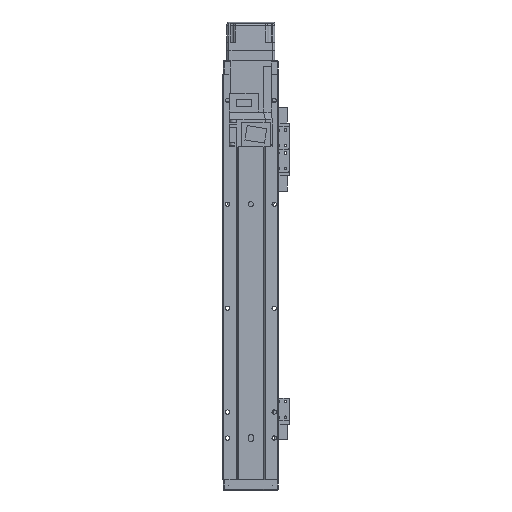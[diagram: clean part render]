
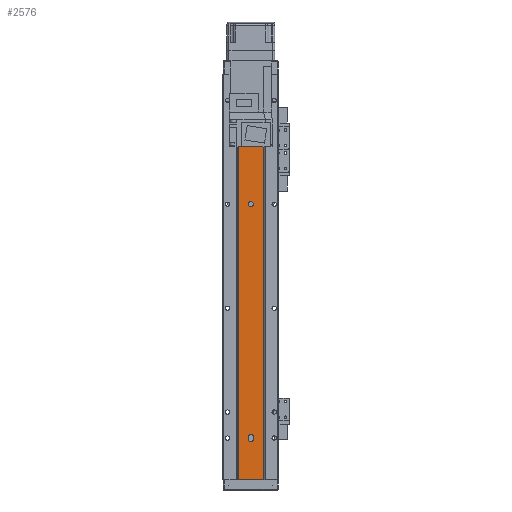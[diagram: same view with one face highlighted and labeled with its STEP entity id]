
A CAD part, front view. The second image highlights one B-rep face of the part: STEP entity #2576.
In plain terms, the highlighted planar face has unit normal (0, -1, 0).
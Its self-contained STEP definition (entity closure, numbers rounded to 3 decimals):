
#451 = CIRCLE ( 'NONE', #18989, 2.5 ) ;
#730 = CARTESIAN_POINT ( 'NONE',  ( 2.5, 1.5, -351. ) ) ;
#1187 = VERTEX_POINT ( 'NONE', #2848 ) ;
#1634 = LINE ( 'NONE', #7717, #4812 ) ;
#1801 = ORIENTED_EDGE ( 'NONE', *, *, #4036, .T. ) ;
#1868 = CARTESIAN_POINT ( 'NONE',  ( 0., 1.5, -125. ) ) ;
#2576 = ADVANCED_FACE ( 'NONE', ( #34370, #12759, #3104, #4954 ), #3392, .T. ) ;
#2631 = EDGE_CURVE ( 'NONE', #21459, #36064, #38103, .T. ) ;
#2697 = CARTESIAN_POINT ( 'NONE',  ( 0., 1.5, -125. ) ) ;
#2848 = CARTESIAN_POINT ( 'NONE',  ( -2.5, 1.5, -25. ) ) ;
#2887 = EDGE_CURVE ( 'NONE', #7837, #21459, #3518, .T. ) ;
#3104 = FACE_BOUND ( 'NONE', #25607, .T. ) ;
#3267 = DIRECTION ( 'NONE',  ( 1., 0., 0. ) ) ;
#3360 = CARTESIAN_POINT ( 'NONE',  ( 2.5, 1.5, -25. ) ) ;
#3392 = PLANE ( 'NONE',  #17616 ) ;
#3473 = EDGE_LOOP ( 'NONE', ( #5670, #26751, #28394, #10118 ) ) ;
#3518 = LINE ( 'NONE', #34626, #5800 ) ;
#4036 = EDGE_CURVE ( 'NONE', #15973, #19961, #33252, .T. ) ;
#4352 = CARTESIAN_POINT ( 'NONE',  ( -12.293, 1.5, -390. ) ) ;
#4812 = VECTOR ( 'NONE', #33839, 1000. ) ;
#4954 = FACE_OUTER_BOUND ( 'NONE', #7087, .T. ) ;
#5042 = CARTESIAN_POINT ( 'NONE',  ( 12.293, 1.5, -390. ) ) ;
#5670 = ORIENTED_EDGE ( 'NONE', *, *, #25102, .F. ) ;
#5800 = VECTOR ( 'NONE', #19455, 1000. ) ;
#5866 = CARTESIAN_POINT ( 'NONE',  ( 2.5, 1.5, -349. ) ) ;
#6339 = CARTESIAN_POINT ( 'NONE',  ( 12.293, 1.5, -390. ) ) ;
#6765 = CARTESIAN_POINT ( 'NONE',  ( 12.293, 1.5, -390. ) ) ;
#7087 = EDGE_LOOP ( 'NONE', ( #12561, #28130, #20451, #1801 ) ) ;
#7109 = AXIS2_PLACEMENT_3D ( 'NONE', #16105, #12891, #27299 ) ;
#7208 = EDGE_LOOP ( 'NONE', ( #33352, #10644 ) ) ;
#7343 = LINE ( 'NONE', #28990, #26219 ) ;
#7717 = CARTESIAN_POINT ( 'NONE',  ( 12.293, 1.5, 0. ) ) ;
#7837 = VERTEX_POINT ( 'NONE', #730 ) ;
#7858 = EDGE_CURVE ( 'NONE', #1187, #26716, #17765, .T. ) ;
#7973 = ORIENTED_EDGE ( 'NONE', *, *, #17970, .F. ) ;
#8815 = VECTOR ( 'NONE', #26708, 1000. ) ;
#9010 = DIRECTION ( 'NONE',  ( 0., -1., 0. ) ) ;
#10118 = ORIENTED_EDGE ( 'NONE', *, *, #2887, .F. ) ;
#10265 = AXIS2_PLACEMENT_3D ( 'NONE', #24724, #18903, #15959 ) ;
#10644 = ORIENTED_EDGE ( 'NONE', *, *, #27103, .F. ) ;
#11139 = CARTESIAN_POINT ( 'NONE',  ( 12.293, 1.5, -390. ) ) ;
#11646 = AXIS2_PLACEMENT_3D ( 'NONE', #26904, #9010, #14933 ) ;
#12551 = EDGE_CURVE ( 'NONE', #36853, #19961, #1634, .T. ) ;
#12561 = ORIENTED_EDGE ( 'NONE', *, *, #12551, .F. ) ;
#12759 = FACE_BOUND ( 'NONE', #7208, .T. ) ;
#12891 = DIRECTION ( 'NONE',  ( 0., -1., 0. ) ) ;
#12955 = EDGE_CURVE ( 'NONE', #13972, #36853, #34674, .T. ) ;
#13523 = CIRCLE ( 'NONE', #10265, 2.5 ) ;
#13972 = VERTEX_POINT ( 'NONE', #4352 ) ;
#14933 = DIRECTION ( 'NONE',  ( 1., 0., 0. ) ) ;
#15347 = CARTESIAN_POINT ( 'NONE',  ( -2.5, 1.5, -349. ) ) ;
#15366 = CARTESIAN_POINT ( 'NONE',  ( 0., 1.5, -349. ) ) ;
#15756 = DIRECTION ( 'NONE',  ( 0., -1., 0. ) ) ;
#15959 = DIRECTION ( 'NONE',  ( 1., 0., 0. ) ) ;
#15973 = VERTEX_POINT ( 'NONE', #6765 ) ;
#16105 = CARTESIAN_POINT ( 'NONE',  ( 0., 1.5, -25. ) ) ;
#16589 = DIRECTION ( 'NONE',  ( 0., -1., 0. ) ) ;
#16877 = CARTESIAN_POINT ( 'NONE',  ( 12.293, 1.5, 0. ) ) ;
#17616 = AXIS2_PLACEMENT_3D ( 'NONE', #6339, #29728, #3267 ) ;
#17765 = CIRCLE ( 'NONE', #11646, 2.5 ) ;
#17789 = AXIS2_PLACEMENT_3D ( 'NONE', #1868, #16589, #22356 ) ;
#17970 = EDGE_CURVE ( 'NONE', #26716, #1187, #35024, .T. ) ;
#18499 = DIRECTION ( 'NONE',  ( 0., 0., 1. ) ) ;
#18646 = LINE ( 'NONE', #5042, #28756 ) ;
#18784 = EDGE_CURVE ( 'NONE', #13972, #15973, #18646, .T. ) ;
#18903 = DIRECTION ( 'NONE',  ( 0., -1., 0. ) ) ;
#18989 = AXIS2_PLACEMENT_3D ( 'NONE', #2697, #34829, #23095 ) ;
#19351 = AXIS2_PLACEMENT_3D ( 'NONE', #15366, #15756, #32997 ) ;
#19455 = DIRECTION ( 'NONE',  ( 0., 0., 1. ) ) ;
#19961 = VERTEX_POINT ( 'NONE', #16877 ) ;
#20451 = ORIENTED_EDGE ( 'NONE', *, *, #18784, .T. ) ;
#20496 = DIRECTION ( 'NONE',  ( 0., 0., -1. ) ) ;
#20604 = CARTESIAN_POINT ( 'NONE',  ( -12.293, 1.5, -390. ) ) ;
#21459 = VERTEX_POINT ( 'NONE', #5866 ) ;
#22262 = VECTOR ( 'NONE', #18499, 1000. ) ;
#22356 = DIRECTION ( 'NONE',  ( 1., 0., 0. ) ) ;
#23095 = DIRECTION ( 'NONE',  ( 1., 0., 0. ) ) ;
#23103 = CARTESIAN_POINT ( 'NONE',  ( 2.5, 1.5, -125. ) ) ;
#23515 = CARTESIAN_POINT ( 'NONE',  ( -2.5, 1.5, -351. ) ) ;
#24724 = CARTESIAN_POINT ( 'NONE',  ( 0., 1.5, -351. ) ) ;
#25102 = EDGE_CURVE ( 'NONE', #33958, #7837, #13523, .T. ) ;
#25607 = EDGE_LOOP ( 'NONE', ( #7973, #27916 ) ) ;
#26219 = VECTOR ( 'NONE', #20496, 1000. ) ;
#26708 = DIRECTION ( 'NONE',  ( 0., 0., 1. ) ) ;
#26716 = VERTEX_POINT ( 'NONE', #3360 ) ;
#26751 = ORIENTED_EDGE ( 'NONE', *, *, #33366, .F. ) ;
#26904 = CARTESIAN_POINT ( 'NONE',  ( 0., 1.5, -25. ) ) ;
#27103 = EDGE_CURVE ( 'NONE', #28297, #32709, #451, .T. ) ;
#27299 = DIRECTION ( 'NONE',  ( 1., 0., 0. ) ) ;
#27916 = ORIENTED_EDGE ( 'NONE', *, *, #7858, .F. ) ;
#28130 = ORIENTED_EDGE ( 'NONE', *, *, #12955, .F. ) ;
#28297 = VERTEX_POINT ( 'NONE', #30090 ) ;
#28394 = ORIENTED_EDGE ( 'NONE', *, *, #2631, .F. ) ;
#28756 = VECTOR ( 'NONE', #36955, 1000. ) ;
#28990 = CARTESIAN_POINT ( 'NONE',  ( -2.5, 1.5, -390. ) ) ;
#29728 = DIRECTION ( 'NONE',  ( 0., -1., 0. ) ) ;
#30090 = CARTESIAN_POINT ( 'NONE',  ( -2.5, 1.5, -125. ) ) ;
#31678 = CIRCLE ( 'NONE', #17789, 2.5 ) ;
#32709 = VERTEX_POINT ( 'NONE', #23103 ) ;
#32997 = DIRECTION ( 'NONE',  ( 1., 0., 0. ) ) ;
#33252 = LINE ( 'NONE', #11139, #8815 ) ;
#33352 = ORIENTED_EDGE ( 'NONE', *, *, #37701, .F. ) ;
#33366 = EDGE_CURVE ( 'NONE', #36064, #33958, #7343, .T. ) ;
#33839 = DIRECTION ( 'NONE',  ( 1., 0., 0. ) ) ;
#33958 = VERTEX_POINT ( 'NONE', #23515 ) ;
#34370 = FACE_BOUND ( 'NONE', #3473, .T. ) ;
#34626 = CARTESIAN_POINT ( 'NONE',  ( 2.5, 1.5, -390. ) ) ;
#34674 = LINE ( 'NONE', #20604, #22262 ) ;
#34829 = DIRECTION ( 'NONE',  ( 0., -1., 0. ) ) ;
#35024 = CIRCLE ( 'NONE', #7109, 2.5 ) ;
#36064 = VERTEX_POINT ( 'NONE', #15347 ) ;
#36555 = CARTESIAN_POINT ( 'NONE',  ( -12.293, 1.5, 0. ) ) ;
#36853 = VERTEX_POINT ( 'NONE', #36555 ) ;
#36955 = DIRECTION ( 'NONE',  ( 1., 0., 0. ) ) ;
#37701 = EDGE_CURVE ( 'NONE', #32709, #28297, #31678, .T. ) ;
#38103 = CIRCLE ( 'NONE', #19351, 2.5 ) ;
